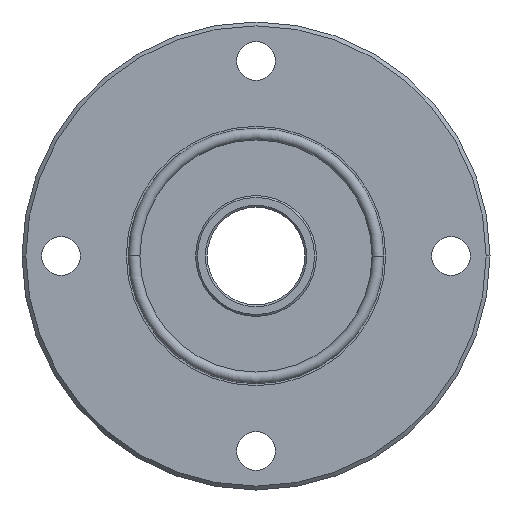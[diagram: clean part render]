
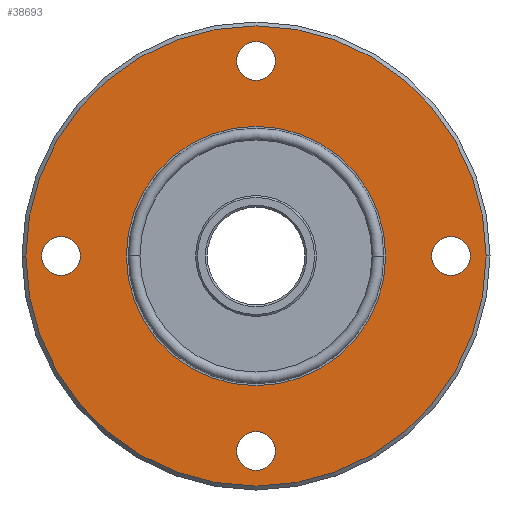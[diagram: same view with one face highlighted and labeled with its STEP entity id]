
A CAD part, left-side view. The second image highlights one B-rep face of the part: STEP entity #38693.
In plain terms, the highlighted planar face has unit normal (-1, 0, 0).
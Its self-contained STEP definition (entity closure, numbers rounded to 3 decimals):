
#1687 = CARTESIAN_POINT ( 'NONE',  ( 0., 59., 0. ) ) ;
#1752 = DIRECTION ( 'NONE',  ( 0., -1., 0. ) ) ;
#1753 = DIRECTION ( 'NONE',  ( -1., 0., 0. ) ) ;
#1754 = CARTESIAN_POINT ( 'NONE',  ( 0., 0., 0. ) ) ;
#1755 = AXIS2_PLACEMENT_3D ( 'NONE', #1754, #1753, #1752 ) ;
#1756 = CIRCLE ( 'NONE', #1755, 59. ) ;
#1758 = CARTESIAN_POINT ( 'NONE',  ( 0., -59., 0. ) ) ;
#9655 = CARTESIAN_POINT ( 'NONE',  ( 0., -33.25, 0. ) ) ;
#9656 = DIRECTION ( 'NONE',  ( 0., -1., 0. ) ) ;
#9657 = DIRECTION ( 'NONE',  ( -1., 0., 0. ) ) ;
#9658 = CARTESIAN_POINT ( 'NONE',  ( 0., 0., 0. ) ) ;
#9659 = AXIS2_PLACEMENT_3D ( 'NONE', #9658, #9657, #9656 ) ;
#9660 = CIRCLE ( 'NONE', #9659, 33.25 ) ;
#9693 = CARTESIAN_POINT ( 'NONE',  ( 0., 33.25, 0. ) ) ;
#16711 = EDGE_CURVE ( 'NONE', #16720, #16712, #9660, .T. ) ;
#16712 = VERTEX_POINT ( 'NONE', #9655 ) ;
#16720 = VERTEX_POINT ( 'NONE', #9693 ) ;
#19195 = CARTESIAN_POINT ( 'NONE',  ( 0., 5., 50. ) ) ;
#19617 = VERTEX_POINT ( 'NONE', #1687 ) ;
#19667 = VERTEX_POINT ( 'NONE', #1758 ) ;
#19675 = EDGE_CURVE ( 'NONE', #19667, #19617, #1756, .T. ) ;
#21550 = EDGE_CURVE ( 'NONE', #21675, #21551, #36522, .T. ) ;
#21551 = VERTEX_POINT ( 'NONE', #36513 ) ;
#21562 = VERTEX_POINT ( 'NONE', #36607 ) ;
#21595 = VERTEX_POINT ( 'NONE', #36707 ) ;
#21602 = EDGE_CURVE ( 'NONE', #21630, #21603, #36674, .T. ) ;
#21603 = VERTEX_POINT ( 'NONE', #36797 ) ;
#21614 = VERTEX_POINT ( 'NONE', #36753 ) ;
#21616 = EDGE_CURVE ( 'NONE', #21614, #21595, #36747, .T. ) ;
#21618 = EDGE_CURVE ( 'NONE', #21562, #21619, #36734, .T. ) ;
#21619 = VERTEX_POINT ( 'NONE', #36855 ) ;
#21630 = VERTEX_POINT ( 'NONE', #36813 ) ;
#21675 = VERTEX_POINT ( 'NONE', #19195 ) ;
#36513 = CARTESIAN_POINT ( 'NONE',  ( 0., -5., 50. ) ) ;
#36515 = DIRECTION ( 'NONE',  ( 0., 0., -1. ) ) ;
#36517 = DIRECTION ( 'NONE',  ( -1., 0., 0. ) ) ;
#36519 = CARTESIAN_POINT ( 'NONE',  ( 0., 0., 50. ) ) ;
#36520 = AXIS2_PLACEMENT_3D ( 'NONE', #36519, #36517, #36515 ) ;
#36522 = CIRCLE ( 'NONE', #36520, 5. ) ;
#36607 = CARTESIAN_POINT ( 'NONE',  ( 0., -45., 0. ) ) ;
#36660 = DIRECTION ( 'NONE',  ( 0., -1., 0. ) ) ;
#36662 = DIRECTION ( 'NONE',  ( -1., 0., 0. ) ) ;
#36663 = CARTESIAN_POINT ( 'NONE',  ( 0., 0., 0. ) ) ;
#36664 = AXIS2_PLACEMENT_3D ( 'NONE', #36663, #36662, #36660 ) ;
#36666 = CIRCLE ( 'NONE', #36664, 33.25 ) ;
#36668 = DIRECTION ( 'NONE',  ( 0., -1., 0. ) ) ;
#36669 = DIRECTION ( 'NONE',  ( -1., 0., 0. ) ) ;
#36670 = DIRECTION ( 'NONE',  ( -1., 0., 0. ) ) ;
#36671 = AXIS2_PLACEMENT_3D ( 'NONE', #36684, #36669, #36800 ) ;
#36672 = CARTESIAN_POINT ( 'NONE',  ( 0., 0., 0. ) ) ;
#36674 = CIRCLE ( 'NONE', #36671, 5. ) ;
#36673 = AXIS2_PLACEMENT_3D ( 'NONE', #36672, #36670, #36668 ) ;
#36675 = CIRCLE ( 'NONE', #36673, 59. ) ;
#36684 = CARTESIAN_POINT ( 'NONE',  ( 0., 0., -50. ) ) ;
#36707 = CARTESIAN_POINT ( 'NONE',  ( 0., 45., 0. ) ) ;
#36732 = CARTESIAN_POINT ( 'NONE',  ( 0., -50., 0. ) ) ;
#36734 = CIRCLE ( 'NONE', #36860, 5. ) ;
#36740 = DIRECTION ( 'NONE',  ( 0., -1., 0. ) ) ;
#36742 = DIRECTION ( 'NONE',  ( -1., 0., 0. ) ) ;
#36743 = CARTESIAN_POINT ( 'NONE',  ( 0., 50., 0. ) ) ;
#36745 = AXIS2_PLACEMENT_3D ( 'NONE', #36743, #36742, #36740 ) ;
#36747 = CIRCLE ( 'NONE', #36745, 5. ) ;
#36753 = CARTESIAN_POINT ( 'NONE',  ( 0., 55., 0. ) ) ;
#36797 = CARTESIAN_POINT ( 'NONE',  ( 0., -5., -50. ) ) ;
#36800 = DIRECTION ( 'NONE',  ( 0., 0., 1. ) ) ;
#36813 = CARTESIAN_POINT ( 'NONE',  ( 0., 5., -50. ) ) ;
#36855 = CARTESIAN_POINT ( 'NONE',  ( 0., -55., 0. ) ) ;
#36857 = DIRECTION ( 'NONE',  ( 0., 1., 0. ) ) ;
#36859 = DIRECTION ( 'NONE',  ( -1., 0., 0. ) ) ;
#36860 = AXIS2_PLACEMENT_3D ( 'NONE', #36732, #36859, #36857 ) ;
#37218 = DIRECTION ( 'NONE',  ( 0., -1., 0. ) ) ;
#37219 = DIRECTION ( 'NONE',  ( -1., 0., 0. ) ) ;
#37220 = CARTESIAN_POINT ( 'NONE',  ( 0., 50., 0. ) ) ;
#37221 = AXIS2_PLACEMENT_3D ( 'NONE', #37220, #37219, #37218 ) ;
#37222 = CIRCLE ( 'NONE', #37221, 5. ) ;
#37235 = DIRECTION ( 'NONE',  ( 0., 0., 1. ) ) ;
#37236 = DIRECTION ( 'NONE',  ( -1., 0., 0. ) ) ;
#37237 = CARTESIAN_POINT ( 'NONE',  ( 0., 0., -50. ) ) ;
#37238 = AXIS2_PLACEMENT_3D ( 'NONE', #37237, #37236, #37235 ) ;
#37239 = CIRCLE ( 'NONE', #37238, 5. ) ;
#37240 = DIRECTION ( 'NONE',  ( 0., 1., 0. ) ) ;
#37241 = DIRECTION ( 'NONE',  ( -1., 0., 0. ) ) ;
#37242 = CARTESIAN_POINT ( 'NONE',  ( 0., -50., 0. ) ) ;
#37243 = AXIS2_PLACEMENT_3D ( 'NONE', #37242, #37241, #37240 ) ;
#37244 = CIRCLE ( 'NONE', #37243, 5. ) ;
#37245 = DIRECTION ( 'NONE',  ( 0., 0., -1. ) ) ;
#37246 = DIRECTION ( 'NONE',  ( -1., 0., 0. ) ) ;
#37247 = CARTESIAN_POINT ( 'NONE',  ( 0., 0., 50. ) ) ;
#37248 = AXIS2_PLACEMENT_3D ( 'NONE', #37247, #37246, #37245 ) ;
#37249 = CIRCLE ( 'NONE', #37248, 5. ) ;
#37283 = DIRECTION ( 'NONE',  ( 0., -1., 0. ) ) ;
#37284 = DIRECTION ( 'NONE',  ( -1., 0., 0. ) ) ;
#37285 = CARTESIAN_POINT ( 'NONE',  ( 0., 0., 0. ) ) ;
#37286 = AXIS2_PLACEMENT_3D ( 'NONE', #37285, #37284, #37283 ) ;
#37287 = PLANE ( 'NONE',  #37286 ) ;
#37288 = FACE_BOUND ( 'NONE', #38687, .T. ) ;
#37289 = FACE_BOUND ( 'NONE', #38683, .T. ) ;
#37290 = FACE_BOUND ( 'NONE', #38679, .T. ) ;
#37291 = FACE_BOUND ( 'NONE', #38593, .T. ) ;
#37292 = FACE_BOUND ( 'NONE', #38586, .T. ) ;
#37293 = FACE_OUTER_BOUND ( 'NONE', #38694, .T. ) ;
#38583 = EDGE_CURVE ( 'NONE', #19617, #19667, #36675, .T. ) ;
#38584 = ORIENTED_EDGE ( 'NONE', *, *, #19675, .T. ) ;
#38586 = EDGE_LOOP ( 'NONE', ( #38588, #38590 ) ) ;
#38588 = ORIENTED_EDGE ( 'NONE', *, *, #38589, .F. ) ;
#38589 = EDGE_CURVE ( 'NONE', #16712, #16720, #36666, .T. ) ;
#38590 = ORIENTED_EDGE ( 'NONE', *, *, #16711, .F. ) ;
#38593 = EDGE_LOOP ( 'NONE', ( #38676, #38678 ) ) ;
#38661 = ORIENTED_EDGE ( 'NONE', *, *, #38662, .F. ) ;
#38662 = EDGE_CURVE ( 'NONE', #21595, #21614, #37222, .T. ) ;
#38663 = ORIENTED_EDGE ( 'NONE', *, *, #21616, .F. ) ;
#38676 = ORIENTED_EDGE ( 'NONE', *, *, #38677, .F. ) ;
#38677 = EDGE_CURVE ( 'NONE', #21551, #21675, #37249, .T. ) ;
#38678 = ORIENTED_EDGE ( 'NONE', *, *, #21550, .F. ) ;
#38679 = EDGE_LOOP ( 'NONE', ( #38680, #38682 ) ) ;
#38680 = ORIENTED_EDGE ( 'NONE', *, *, #38681, .F. ) ;
#38681 = EDGE_CURVE ( 'NONE', #21619, #21562, #37244, .T. ) ;
#38682 = ORIENTED_EDGE ( 'NONE', *, *, #21618, .F. ) ;
#38683 = EDGE_LOOP ( 'NONE', ( #38684, #38686 ) ) ;
#38684 = ORIENTED_EDGE ( 'NONE', *, *, #38685, .F. ) ;
#38685 = EDGE_CURVE ( 'NONE', #21603, #21630, #37239, .T. ) ;
#38686 = ORIENTED_EDGE ( 'NONE', *, *, #21602, .F. ) ;
#38687 = EDGE_LOOP ( 'NONE', ( #38661, #38663 ) ) ;
#38693 = ADVANCED_FACE ( 'NONE', ( #37293, #37292, #37291, #37290, #37289, #37288 ), #37287, .T. ) ;
#38694 = EDGE_LOOP ( 'NONE', ( #38695, #38584 ) ) ;
#38695 = ORIENTED_EDGE ( 'NONE', *, *, #38583, .T. ) ;
